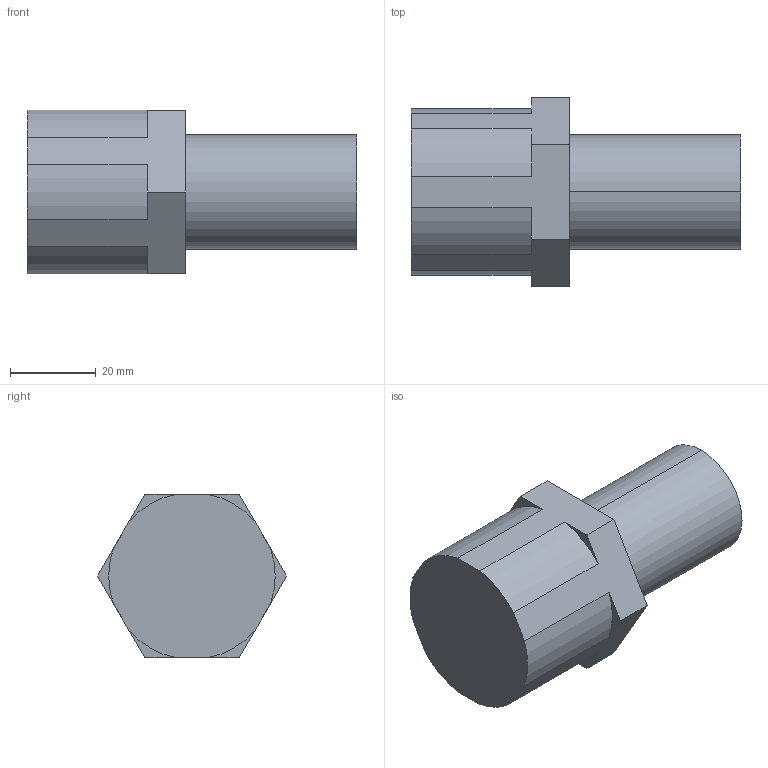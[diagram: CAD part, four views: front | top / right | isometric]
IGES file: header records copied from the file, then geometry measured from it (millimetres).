
Start section: SolidWorks IGES file using analytic representation for surfaces
Global section: file name: S:\Product Visuals\Pumps to be Defeatured\140 fittings\FITTING ASSEMBLIES\DEFEATURED\12-welable.IGS; native system: SolidWorks 2012; preprocessor: SolidWorks 2012; author: rachel.dressel; date: 121203.122718; units: inch
Bounding box: 76.68 x 43.99 x 38.1 mm (x, y, z)
Volume: 52800.4 mm3; surface area: 13010 mm2
Topology: 1 solids, 1 shells, 27 faces, 69 edges, 46 vertices
Faces by surface type: plane 16, revolution 11
